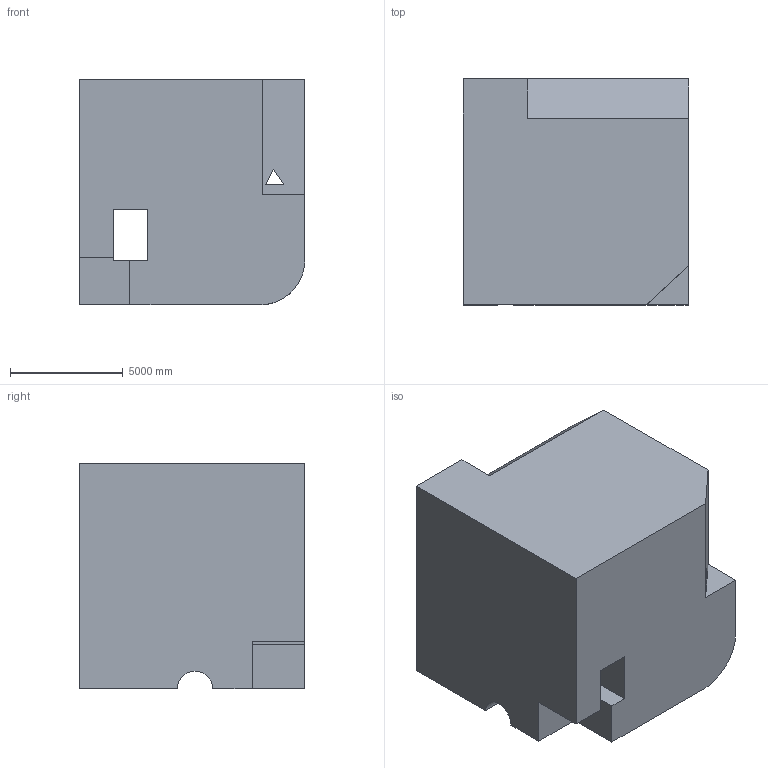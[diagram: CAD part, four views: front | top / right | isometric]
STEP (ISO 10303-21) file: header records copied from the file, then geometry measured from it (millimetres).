
FILE_DESCRIPTION (( 'STEP AP203' ), '1' );
FILE_NAME ('164.STEP', '2022-09-06T15:18:05', ( 'user' ), ( '' ), 'SwSTEP 2.0', 'SolidWorks 2021', '' );
FILE_SCHEMA (( 'CONFIG_CONTROL_DESIGN' ));
Length unit declared in the file: centimetre
Products named in the file (1): 164
Bounding box: 10000 x 10000 x 10000 mm (x, y, z)
Volume: 916385989796.5 mm3; surface area: 670684684.3 mm2
Topology: 1 solids, 1 shells, 24 faces, 69 edges, 46 vertices
Faces by surface type: plane 21, cylinder 3
Entity records: 1042 total; most frequent: CARTESIAN_POINT 324, ORIENTED_EDGE 138, DIRECTION 121, EDGE_CURVE 69, VECTOR 63, LINE 63, VERTEX_POINT 46, AXIS2_PLACEMENT_3D 29
